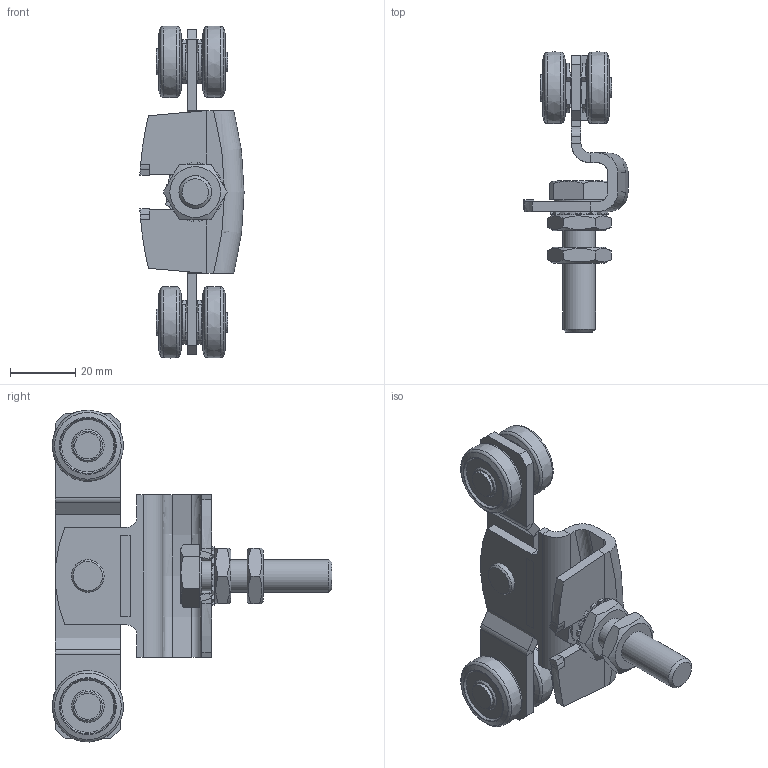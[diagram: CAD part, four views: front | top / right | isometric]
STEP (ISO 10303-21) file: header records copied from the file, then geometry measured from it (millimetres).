
FILE_DESCRIPTION(/* description */ ('Rollenhalter zu Doppelrolle Nr.0'),/* implementation_level */ '2;1');
FILE_NAME(/* name */ 'Q:\sge-ma\Produktmanagement-STB\STB\Workspace\stp\010330917.stp',/* time_stamp */ '2015-03-26T09:27:12+01:00',/* author */ ('avschreier'),/* organization */ (''),/* preprocessor_version */ 'ST-DEVELOPER v15.6',/* originating_system */ 'Autodesk Inventor 2015',/* authorisation */ '');
FILE_SCHEMA (('CONFIG_CONTROL_DESIGN'));
Length unit declared in the file: millimetre
Products named in the file (10): 337000122; 337000223; 336290000; 000303234; 000302243; 000304010; DIN_6798-A_10,5_en; DIN_EN_ISO_4017-M10x40_en; DIN_EN_ISO_4035-M10_en; 010330917
Bounding box: 32 x 86 x 101.98 mm (x, y, z)
Volume: 33056.9 mm3; surface area: 24061.6 mm2
Topology: 17 solids, 17 shells, 415 faces, 999 edges, 636 vertices
Faces by surface type: plane 222, cylinder 120, cone 53, torus 14, bspline 6
Full cylindrical faces by diameter (mm): 6 x7, 6.1 x6, 8 x2, 8.376 x2, 9.188 x1, 10 x2, 10.5 x1, 15.4 x1
Entity records: 9344 total; most frequent: CARTESIAN_POINT 2019, DIRECTION 1556, ORIENTED_EDGE 1408, EDGE_CURVE 704, AXIS2_PLACEMENT_3D 572, VERTEX_POINT 465, LINE 412, VECTOR 412
